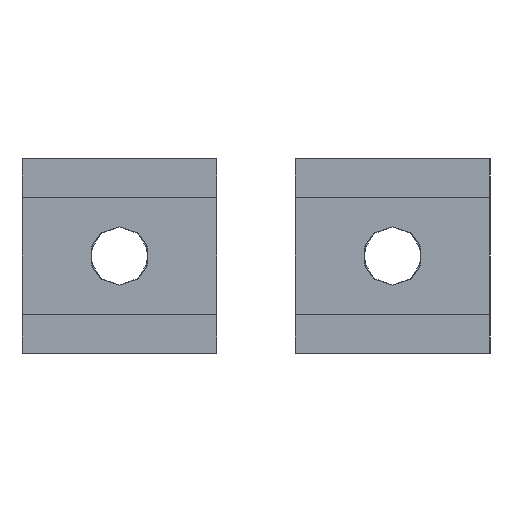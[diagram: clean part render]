
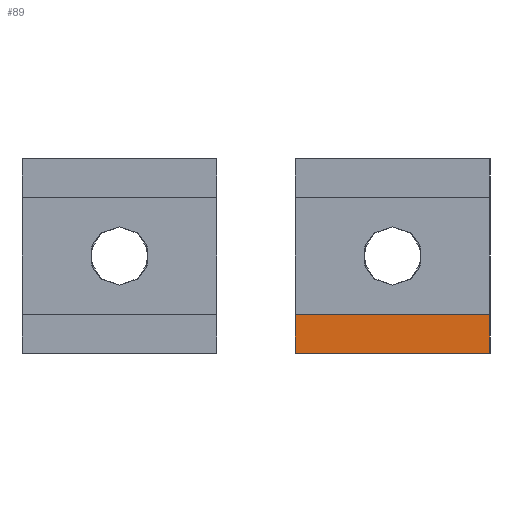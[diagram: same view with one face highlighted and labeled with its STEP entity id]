
A CAD part, left-side view. The second image highlights one B-rep face of the part: STEP entity #89.
In plain terms, the highlighted planar face has unit normal (-1, 0, 0).
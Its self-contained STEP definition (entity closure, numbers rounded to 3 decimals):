
#89=ADVANCED_FACE('',(#125),#1255,.T.);
#125=FACE_OUTER_BOUND('',#165,.T.);
#165=EDGE_LOOP('',(#302,#303,#304,#305));
#302=ORIENTED_EDGE('',*,*,#890,.T.);
#303=ORIENTED_EDGE('',*,*,#891,.T.);
#304=ORIENTED_EDGE('',*,*,#892,.T.);
#305=ORIENTED_EDGE('',*,*,#887,.F.);
#497=PCURVE('',#1254,#677);
#500=PCURVE('',#1255,#680);
#501=PCURVE('',#1255,#681);
#502=PCURVE('',#1255,#682);
#503=PCURVE('',#1255,#683);
#507=PCURVE('',#1256,#687);
#538=PCURVE('',#1262,#718);
#541=PCURVE('',#1263,#721);
#677=DEFINITIONAL_REPRESENTATION('',(#1087),#2290);
#680=DEFINITIONAL_REPRESENTATION('',(#1093),#2290);
#681=DEFINITIONAL_REPRESENTATION('',(#1095),#2290);
#682=DEFINITIONAL_REPRESENTATION('',(#1097),#2290);
#683=DEFINITIONAL_REPRESENTATION('',(#1098),#2290);
#687=DEFINITIONAL_REPRESENTATION('',(#1105),#2290);
#718=DEFINITIONAL_REPRESENTATION('',(#1150),#2290);
#721=DEFINITIONAL_REPRESENTATION('',(#1153),#2290);
#797=SURFACE_CURVE('',#1086,(#497,#503),.PCURVE_S1.);
#800=SURFACE_CURVE('',#1092,(#500,#538),.PCURVE_S1.);
#801=SURFACE_CURVE('',#1094,(#501,#507),.PCURVE_S1.);
#802=SURFACE_CURVE('',#1096,(#502,#541),.PCURVE_S1.);
#887=EDGE_CURVE('',#1209,#1210,#797,.T.);
#890=EDGE_CURVE('',#1209,#1212,#800,.T.);
#891=EDGE_CURVE('',#1212,#1213,#801,.T.);
#892=EDGE_CURVE('',#1213,#1210,#802,.T.);
#1086=B_SPLINE_CURVE_WITH_KNOTS('',1,(#2055,#2056),.UNSPECIFIED.,.F.,.F.,
(2,2),(0.,10.),.UNSPECIFIED.);
#1087=B_SPLINE_CURVE_WITH_KNOTS('',1,(#2057,#2058),.UNSPECIFIED.,.F.,.F.,
(2,2),(0.,10.),.UNSPECIFIED.);
#1092=B_SPLINE_CURVE_WITH_KNOTS('',1,(#2067,#2068),.UNSPECIFIED.,.F.,.F.,
(2,2),(-25.211,-23.211),.UNSPECIFIED.);
#1093=B_SPLINE_CURVE_WITH_KNOTS('',1,(#2069,#2070),.UNSPECIFIED.,.F.,.F.,
(2,2),(-25.211,-23.211),.UNSPECIFIED.);
#1094=B_SPLINE_CURVE_WITH_KNOTS('',1,(#2071,#2072),.UNSPECIFIED.,.F.,.F.,
(2,2),(0.,10.),.UNSPECIFIED.);
#1095=B_SPLINE_CURVE_WITH_KNOTS('',1,(#2073,#2074),.UNSPECIFIED.,.F.,.F.,
(2,2),(0.,10.),.UNSPECIFIED.);
#1096=B_SPLINE_CURVE_WITH_KNOTS('',1,(#2075,#2076),.UNSPECIFIED.,.F.,.F.,
(2,2),(23.211,25.211),.UNSPECIFIED.);
#1097=B_SPLINE_CURVE_WITH_KNOTS('',1,(#2077,#2078),.UNSPECIFIED.,.F.,.F.,
(2,2),(23.211,25.211),.UNSPECIFIED.);
#1098=B_SPLINE_CURVE_WITH_KNOTS('',1,(#2079,#2080),.UNSPECIFIED.,.F.,.F.,
(2,2),(0.,10.),.UNSPECIFIED.);
#1105=B_SPLINE_CURVE_WITH_KNOTS('',1,(#2093,#2094),.UNSPECIFIED.,.F.,.F.,
(2,2),(0.,10.),.UNSPECIFIED.);
#1150=B_SPLINE_CURVE_WITH_KNOTS('',1,(#2247,#2248),.UNSPECIFIED.,.F.,.F.,
(2,2),(-25.211,-23.211),.UNSPECIFIED.);
#1153=B_SPLINE_CURVE_WITH_KNOTS('',1,(#2253,#2254),.UNSPECIFIED.,.F.,.F.,
(2,2),(23.211,25.211),.UNSPECIFIED.);
#1209=VERTEX_POINT('',#2032);
#1210=VERTEX_POINT('',#2033);
#1212=VERTEX_POINT('',#2035);
#1213=VERTEX_POINT('',#2036);
#1254=PLANE('',#1326);
#1255=PLANE('',#1327);
#1256=PLANE('',#1328);
#1262=PLANE('',#1334);
#1263=PLANE('',#1335);
#1326=AXIS2_PLACEMENT_3D('',#1985,#1363,$);
#1327=AXIS2_PLACEMENT_3D('',#1986,#1364,$);
#1328=AXIS2_PLACEMENT_3D('',#1987,#1365,$);
#1334=AXIS2_PLACEMENT_3D('',#1993,#1371,$);
#1335=AXIS2_PLACEMENT_3D('',#1994,#1372,$);
#1363=DIRECTION('',(0.,-1.,0.));
#1364=DIRECTION('',(-1.,0.,0.));
#1365=DIRECTION('',(0.496,-0.868,0.));
#1371=DIRECTION('',(0.,0.,-1.));
#1372=DIRECTION('',(0.,0.,1.));
#1985=CARTESIAN_POINT('',(0.,-3.,-5.));
#1986=CARTESIAN_POINT('',(1.,-3.,-5.));
#1987=CARTESIAN_POINT('',(1.,-5.,-5.));
#1993=CARTESIAN_POINT('',(5.063,6.25,-5.));
#1994=CARTESIAN_POINT('',(5.063,6.25,5.));
#2032=CARTESIAN_POINT('',(1.,-3.,-5.));
#2033=CARTESIAN_POINT('',(1.,-3.,5.));
#2035=CARTESIAN_POINT('',(1.,-5.,-5.));
#2036=CARTESIAN_POINT('',(1.,-5.,5.));
#2055=CARTESIAN_POINT('',(1.,-3.,-5.));
#2056=CARTESIAN_POINT('',(1.,-3.,5.));
#2057=CARTESIAN_POINT('',(-25.211,0.));
#2058=CARTESIAN_POINT('',(-25.211,10.));
#2067=CARTESIAN_POINT('',(1.,-3.,-5.));
#2068=CARTESIAN_POINT('',(1.,-5.,-5.));
#2069=CARTESIAN_POINT('',(-25.211,0.));
#2070=CARTESIAN_POINT('',(-23.211,0.));
#2071=CARTESIAN_POINT('',(1.,-5.,-5.));
#2072=CARTESIAN_POINT('',(1.,-5.,5.));
#2073=CARTESIAN_POINT('',(-23.211,0.));
#2074=CARTESIAN_POINT('',(-23.211,10.));
#2075=CARTESIAN_POINT('',(1.,-5.,5.));
#2076=CARTESIAN_POINT('',(1.,-3.,5.));
#2077=CARTESIAN_POINT('',(-23.211,10.));
#2078=CARTESIAN_POINT('',(-25.211,10.));
#2079=CARTESIAN_POINT('',(-25.211,0.));
#2080=CARTESIAN_POINT('',(-25.211,10.));
#2093=CARTESIAN_POINT('',(-23.211,0.));
#2094=CARTESIAN_POINT('',(-23.211,10.));
#2247=CARTESIAN_POINT('',(0.,-1.));
#2248=CARTESIAN_POINT('',(2.,-1.));
#2253=CARTESIAN_POINT('',(-1.,2.));
#2254=CARTESIAN_POINT('',(-1.,0.));
#2290=(
GEOMETRIC_REPRESENTATION_CONTEXT(2)
PARAMETRIC_REPRESENTATION_CONTEXT()
REPRESENTATION_CONTEXT('pspace','')
);
